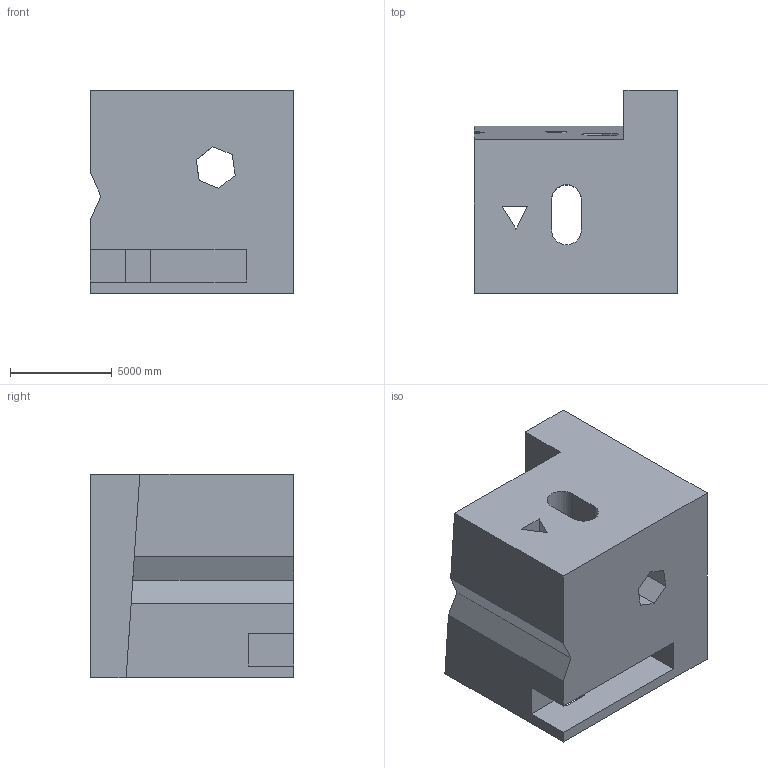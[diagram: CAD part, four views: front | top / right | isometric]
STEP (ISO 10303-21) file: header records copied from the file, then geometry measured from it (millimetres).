
FILE_DESCRIPTION (( 'STEP AP203' ), '1' );
FILE_NAME ('1725.STEP', '2022-08-19T12:06:34', ( 'user' ), ( '' ), 'SwSTEP 2.0', 'SolidWorks 2021', '' );
FILE_SCHEMA (( 'CONFIG_CONTROL_DESIGN' ));
Length unit declared in the file: centimetre
Products named in the file (1): 1725
Bounding box: 10000 x 10000 x 10000 mm (x, y, z)
Volume: 740222875660.1 mm3; surface area: 767201936.1 mm2
Topology: 1 solids, 1 shells, 40 faces, 126 edges, 84 vertices
Faces by surface type: plane 38, cylinder 2
Entity records: 1475 total; most frequent: CARTESIAN_POINT 269, ORIENTED_EDGE 252, DIRECTION 206, EDGE_CURVE 126, LINE 116, VECTOR 116, VERTEX_POINT 84, EDGE_LOOP 48
